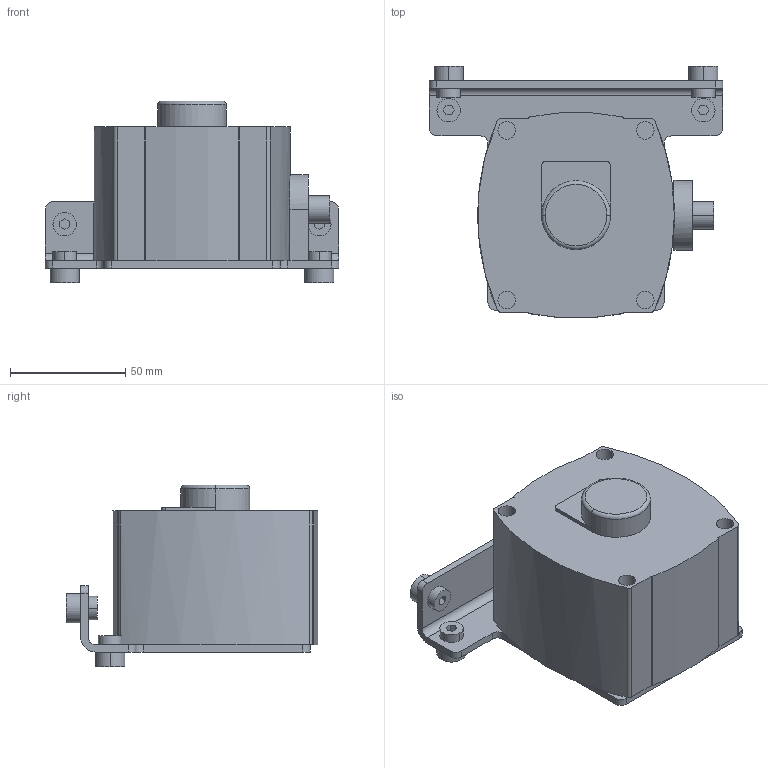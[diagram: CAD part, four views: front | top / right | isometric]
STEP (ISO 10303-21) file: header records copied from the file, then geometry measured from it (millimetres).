
FILE_DESCRIPTION((''),'2;1');
FILE_NAME('75M-JG','2016-05-20T',('adam.dellomodarme'),(''),'PRO/ENGINEER BY PARAMETRIC TECHNOLOGY CORPORATION, 2012420','PRO/ENGINEER BY PARAMETRIC TECHNOLOGY CORPORATION, 2012420','');
FILE_SCHEMA(('CONFIG_CONTROL_DESIGN'));
Length unit declared in the file: inch
Products named in the file (1): 75M-JG
Bounding box: 127 x 109.02 x 78.58 mm (x, y, z)
Volume: 452145.7 mm3; surface area: 50660.1 mm2
Topology: 1 solids, 5 shells, 183 faces, 437 edges, 287 vertices
Faces by surface type: plane 94, cylinder 87, torus 2
Entity records: 5380 total; most frequent: DIRECTION 987, CARTESIAN_POINT 907, ORIENTED_EDGE 866, EDGE_CURVE 433, AXIS2_PLACEMENT_3D 372, VERTEX_POINT 285, VECTOR 243, LINE 243
